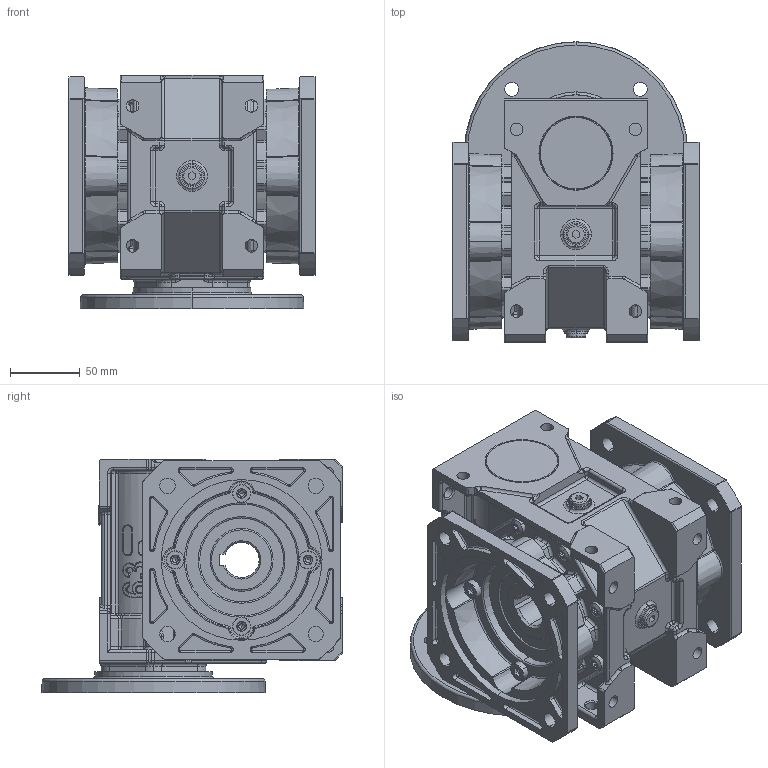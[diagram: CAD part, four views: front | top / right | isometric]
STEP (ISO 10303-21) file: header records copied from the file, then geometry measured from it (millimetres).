
FILE_DESCRIPTION (( 'STEP AP214' ), '1' );
FILE_NAME ('mkt63-71-130-ffrl.step', '2017-09-08T10:05:44', ( '' ), ( '' ), 'SwSTEP 2.0', 'SolidWorks 2016', '' );
FILE_SCHEMA (( 'AUTOMOTIVE_DESIGN' ));
Length unit declared in the file: millimetre
Products named in the file (7): Skrin MKT63_MKT63 AP71; D6912_æroub DIN 6912 - M8x25; Pøíruba MRT80 kulatá _110-130-160; mkt63-71-130-ffrl; D6912_æroub DIN 6912 - M6x25; Víèko MKT63; Pøíruba FF MKT 63_odlitek
Assembly tree (19 placements, depth 2):
  mkt63-71-130-ffrl
    Skrin MKT63_MKT63 AP71
    Pøíruba MRT80 kulatá _110-130-160
    D6912_æroub DIN 6912 - M6x25  x6
    Pøíruba FF MKT 63_odlitek  x2
    D6912_æroub DIN 6912 - M8x25  x8
    Víèko MKT63
Bounding box: 176 x 215 x 167 mm (x, y, z)
Volume: 2512001.7 mm3; surface area: 375817.4 mm2
Topology: 19 solids, 19 shells, 3080 faces, 7179 edges, 4153 vertices
Faces by surface type: cylinder 1124, torus 591, plane 588, cone 351, bspline 266, sphere 160
Entity records: 85362 total; most frequent: CARTESIAN_POINT 28248, DIRECTION 12040, ORIENTED_EDGE 10992, EDGE_CURVE 5496, AXIS2_PLACEMENT_3D 5104, VERTEX_POINT 3298, CIRCLE 3000, EDGE_LOOP 2510
